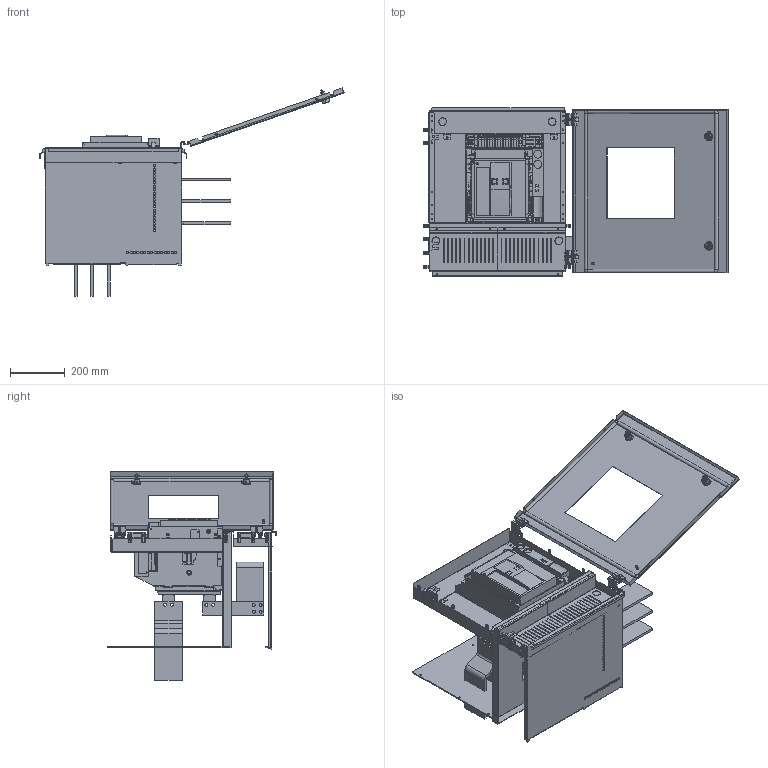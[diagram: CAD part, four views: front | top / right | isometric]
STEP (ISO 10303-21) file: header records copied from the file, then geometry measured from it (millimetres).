
FILE_DESCRIPTION(('CAx-IF Rec.Pracs.---Model Styling and Organization---1.2---2011-12-15','CAx-IF Rec.Pracs.---Geometric and Assembly Validation Properties---4.1---2014-06-16','CAx-IF Rec.Pracs.---PMI Polyline Presentation---2.0---2013-05-24'),'2;1');
FILE_NAME('R5M212IB3H61521S (one-side).stp','2021-05-05T12:47:23+03:00',(''),(''),'STEP Interface 4.4 by CT CoreTechnologie','3D_Evolution4.4 by CT CoreTechnologie','');
FILE_SCHEMA(('AUTOMOTIVE_DESIGN { 1 0 10303 214 1 1 1 1 }'));
Length unit declared in the file: millimetre
Products named in the file (68): R5M212IB3H61521S(îäíîñòîðîííèé); M6 x 16-DIN 7991 ISR_thread; RB.1228.00.00.0_-00; RB.0116.00.00.3_-00; RB.1231.00.00.0_-00; AC00C485; SHNDT1W_-00; SHNDT2W_-00; RB.1231.00.00.0_-01; SHNDT3W_-00; RB.1229.00.00.0_-00; RB.1227.00.00.0_-01; RB.1383.00.00.0_-00 (NT W); RB.1233.00.00.0_-00; RB.1227.00.00.0_-00; RB.1226.00.00.0_-00; SHNDO2_-00; SHNDO1_-00; RB.1225.00.00.0 ÑÁ_-00 (NT06...16); RB.1225.00.01.0_-00 (SACE Emax E1.2 W); PF 7x14 MCC2.0_0600x0600; Ì6õ12-A5100231_straight; AC00C061_AC00C061; AC00C266; RB.0687.00.00.1_-00; SHNDDS1W_-00; MS737-1-1(1); MS737-1-1 Z_ ªàëâ; MS737-1-1 stop_fixed; SHNDDS2W_-00; Masterpact NT06-NT16 3P W; Chassis withdrawable device for Masterpact NT06 to NT16 3P; CYLINDRE; EMBOUT_SUPPORT_BAS_GAUCHE; TIGE_CENTRALE; EMBOUT_SUPPORT_BAS_DROITE; COQUE_ARRIERE_CHASSIS_3P; FLASQUE_MECA_ASM; FLASQUE_INTERMEDIAIRE; PLAQUE_FIX_MUR_DROITE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
Assembly tree (105 placements, depth 6):
  R5M212IB3H61521S(îäíîñòîðîííèé)
    M6 x 16-DIN 7991 ISR_thread  x10
    RB.1228.00.00.0_-00  x2
    RB.0116.00.00.3_-00  x2
    RB.1231.00.00.0_-00
    AC00C485  x12
    SHNDT1W_-00
    SHNDT2W_-00
    RB.1231.00.00.0_-01
    SHNDT3W_-00
    RB.1229.00.00.0_-00
    RB.1227.00.00.0_-01
    RB.1383.00.00.0_-00 (NT W)
    RB.1233.00.00.0_-00
    RB.1227.00.00.0_-00
    RB.1226.00.00.0_-00
    SHNDO2_-00  x3
    SHNDO1_-00  x3
    RB.1225.00.00.0 ÑÁ_-00 (NT06...16)
      RB.1225.00.01.0_-00 (SACE Emax E1.2 W)
      PF 7x14 MCC2.0_0600x0600
      Ì6õ12-A5100231_straight
      AC00C061_AC00C061
      AC00C266  x2
    RB.0687.00.00.1_-00  x2
    SHNDDS1W_-00
    MS737-1-1(1)
      MS737-1-1 Z_ ªàëâ
      MS737-1-1 stop_fixed
    SHNDDS2W_-00
    Masterpact NT06-NT16 3P W
      Chassis withdrawable device for Masterpact NT06 to NT16 3P
        CYLINDRE
        EMBOUT_SUPPORT_BAS_GAUCHE
        TIGE_CENTRALE
        EMBOUT_SUPPORT_BAS_DROITE
        COQUE_ARRIERE_CHASSIS_3P
        FLASQUE_MECA_ASM
          FLASQUE_INTERMEDIAIRE
          PLAQUE_FIX_MUR_DROITE
          PLAQUE_FIX_MUR_DROITE_2
          RAIL
          SUPPORT_RAIL
        MUR_GAUCHE_ASM
          FLASQUE_CHASSIS_GAUCHE
          PLAQUE_FIX_MUR_GAUCHE
          RONDELLE_RAIL_ASM(1)
            RONDELLE_PRINCIPALE
          RONDELLE_RAIL_ASM(2)
            RONDELLE_PRINCIPALE
          RAIL
          SUPPORT_RAIL
          EMBOUT_COUVERCLE
        SUPPORT_FLASQUE
        FLASQUE_CHASSIS_DROITE
        PLAQUE_SUPPORT_BAS_3P
        COUVERCLE_3P_ASM
          PIECE_COUVERCLE_SUPERIEUR_3P
          PIECE_COUVERCLE_PRINCIPALE_3P
          SUPPORT_BAS_COVER_3P
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Bounding box: 1110.83 x 617 x 761.16 mm (x, y, z)
Surface area: 5209979.4 mm2 (no closed solid volume)
Topology: 0 solids, 122 shells, 4422 faces, 11761 edges, 7562 vertices
Faces by surface type: plane 2676, cylinder 1386, bspline 360
Entity records: 95448 total; most frequent: CARTESIAN_POINT 19494, ORIENTED_EDGE 15252, DIRECTION 14538, EDGE_CURVE 7626, VECTOR 6070, LINE 6070, VERTEX_POINT 5006, AXIS2_PLACEMENT_3D 4234
